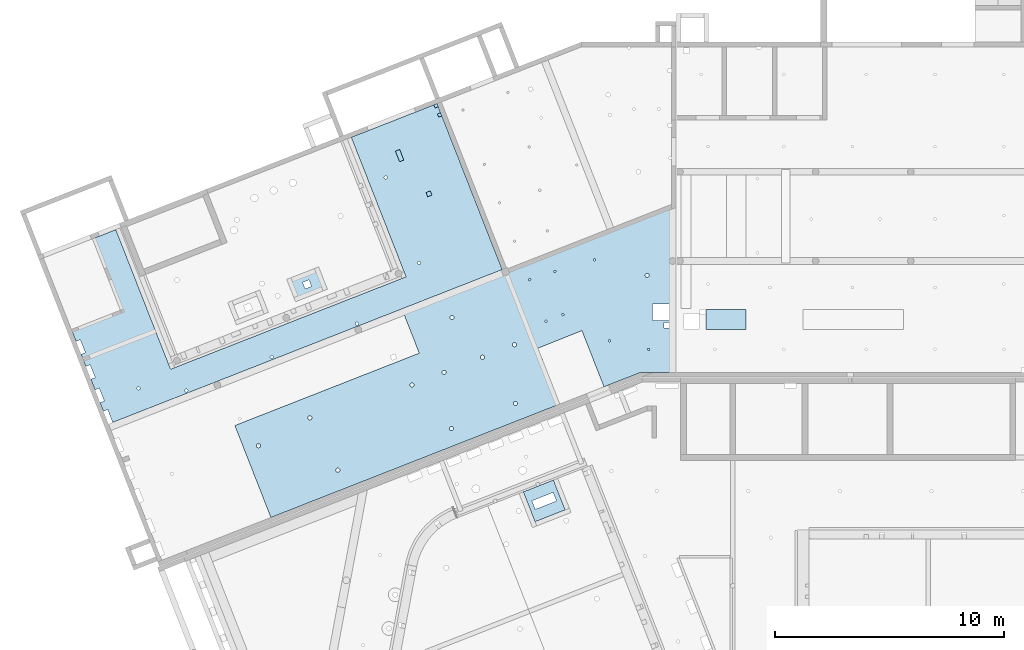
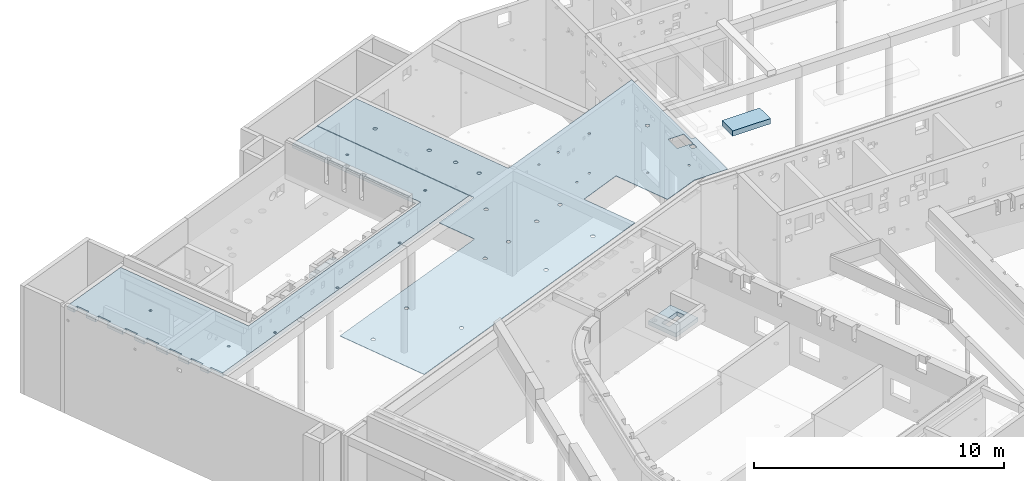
# One storey, part 8 of 28: 5 slabs, 44 openings.
"""IFC2X3 building model written with IfcOpenShell, lengths in metres."""

from ifc_helpers import new_model, entity, si_unit, converted_unit, direction, frame, frame_2d, origin, origin_with_axes, origin_2d_with_axis, place, context, subcontext, project, spatial, polyline, rectangle, circle, outline, extrude, material, element, save


model = new_model("IFC2X3")

# Units and contexts
model_context = context("Model", 3, precision=1e-05, world=origin(), true_north=direction((-0.407059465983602, -0.913401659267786)))
body_context = subcontext(model_context, "Body", "Model", "MODEL_VIEW")
ifc_project = project(units=[si_unit("LENGTHUNIT", "METRE"), si_unit("AREAUNIT", "SQUARE_METRE"), si_unit("VOLUMEUNIT", "CUBIC_METRE"), si_unit("MASSUNIT", "GRAM", prefix="KILO"), converted_unit("PLANEANGLEUNIT", "DEGREE", entity("IfcPlaneAngleMeasure", 0.0174532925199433), si_unit("PLANEANGLEUNIT", "RADIAN"), dimensions=[0, 0, 0, 0, 0, 0, 0])], contexts=[model_context])

# Site, buildings, storey
site_placement = place(None, origin())
site = spatial("IfcSite", under=ifc_project, at=site_placement, Name="Site", CompositionType="ELEMENT")
building_1_placement = place(site_placement, origin())
building_1 = spatial("IfcBuilding", under=site, at=building_1_placement, Name="Site", CompositionType="COMPLEX")
building_2_placement = place(building_1_placement, origin())
building_2 = spatial("IfcBuilding", under=building_1, at=building_2_placement, Name="Bâtiments", CompositionType="ELEMENT")
storey_placement = place(building_2_placement, frame((0.0, 0.0, -5.3)))
storey = spatial("IfcBuildingStorey", under=building_2, at=storey_placement, Name="SOUS-SOL", CompositionType="ELEMENT", Elevation=-5.3)

# Slab, opening
ifc_material_1 = material(Name="Béton")
slab_1_placement = place(storey_placement, frame((10.8546325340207, -1.92984613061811, 3.35)))
slab_1 = element("IfcSlab", 1, at=slab_1_placement, inside=storey, material=ifc_material_1, PredefinedType="FLOOR", context=body_context, shape_type="SweptSolid", body=[
    extrude(rectangle(XDim=1.05000000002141, YDim=1.50000472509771, at=frame_2d((0.889939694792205, -0.214792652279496), x_axis=(0.365246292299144, -0.930910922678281))), frame((0.0, 0.977456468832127, 0.0), z_axis=(0.0, 0.0, 1.0), x_axis=(1.0, 0.0, 0.0)), (0.0, 0.0, 1.0), 0.2),
])
opening_1_placement = place(slab_1_placement, frame((0.695519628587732, 0.5682336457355, 0.0)))
element("IfcOpeningElement", 2, at=opening_1_placement, cuts=slab_1, Name="Trémie dans dalle", ObjectType="Opening", context=body_context, shape_type="SweptSolid", body=[
    extrude(rectangle(XDim=0.299999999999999, YDim=0.300000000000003, at=frame_2d((3.63797880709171e-15, -2.27373675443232e-16), x_axis=(0.365246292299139, -0.930910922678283))), frame((0.194423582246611, 0.194423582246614, 0.0), z_axis=(0.0, 0.0, 1.0), x_axis=(1.0, 0.0, 0.0)), (0.0, 0.0, 1.0), 0.2),
])

# Slab
ifc_material_2 = material(Name="Dalle_BA")
slab_2_placement = place(storey_placement, frame((29.1797734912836, -3.13737551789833, 5.18)))
element("IfcSlab", 3, at=slab_2_placement, inside=storey, material=ifc_material_2, PredefinedType="FLOOR", context=body_context, shape_type="SweptSolid", body=[
    extrude(rectangle(XDim=0.860000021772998, YDim=1.75000000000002, at=frame_2d((0.875000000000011, -0.430000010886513), x_axis=(0.0, -1.0))), frame((0.0, 0.860000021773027, 0.0), z_axis=(0.0, 0.0, 1.0), x_axis=(1.0, 0.0, 0.0)), (0.0, 0.0, 1.0), 0.26),
])

# Slab, opening
ifc_material_3 = material(Name="Dalle_BA")
slab_3_placement = place(storey_placement, frame((21.1932772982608, -11.5376427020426, 3.06)))
slab_3 = element("IfcSlab", 4, at=slab_3_placement, inside=storey, material=ifc_material_3, PredefinedType="FLOOR", context=body_context, shape_type="SweptSolid", body=[
    extrude(rectangle(XDim=1.40000000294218, YDim=1.41, at=frame_2d((0.911965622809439, -0.394136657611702), x_axis=(0.365248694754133, -0.930909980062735))), frame((0.0, 1.30327397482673, 0.0), z_axis=(0.0, 0.0, 1.0), x_axis=(1.0, 0.0, 0.0)), (0.0, 0.0, 1.0), 0.2),
])
opening_2_placement = place(slab_3_placement, frame((0.373318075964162, 0.540688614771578, 0.0)))
element("IfcOpeningElement", 5, at=opening_2_placement, cuts=slab_3, Name="Trémie dans dalle", ObjectType="Opening", context=body_context, shape_type="SweptSolid", body=[
    extrude(rectangle(XDim=0.4, YDim=0.999999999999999, at=frame_2d((5.45696821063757e-15, 9.09494701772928e-16), x_axis=(0.365248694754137, -0.930909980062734))), frame((0.538504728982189, 0.368806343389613, 0.0), z_axis=(0.0, 0.0, 1.0), x_axis=(1.0, 0.0, 0.0)), (0.0, 0.0, 1.0), 0.2),
])

# Slab, openings
ifc_material_4 = material(Name="Béton")
slab_4_placement = place(storey_placement, frame((8.58747269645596, -11.3527212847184, 5.16)))
slab_4 = element("IfcSlab", 6, at=slab_4_placement, inside=storey, material=ifc_material_4, PredefinedType="FLOOR", context=body_context, shape_type="SweptSolid", body=[
    extrude(outline(polyline([(15.16430892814, 8.16389032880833), (16.1272026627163, 5.70923594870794), (17.7191113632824, 6.33383182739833), (19.2751420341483, 6.33382847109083), (19.2751479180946, 8.89333667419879), (19.2752129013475, 8.89336709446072), (19.0751479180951, 8.89333713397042), (19.0751589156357, 13.6774788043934), (11.6977486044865, 10.782924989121), (8.83438880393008, 18.0808304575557), (6.55218909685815, 17.185401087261), (9.48849608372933, 9.70157358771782), (7.39012760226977, 8.8782710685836), (8.05715747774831, 7.17819796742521), (0.0, 4.01694287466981), (1.5760621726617, 0.0), (14.1998395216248, 4.95302230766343), (13.2424809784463, 7.39489115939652), (15.16430892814, 8.16389032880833)])), origin_with_axes(), (0.0, 0.0, 1.0), 0.02),
])
opening_3_placement = place(slab_4_placement, frame((8.36874112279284, 15.7484575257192, 0.0)))
element("IfcOpeningElement", 7, at=opening_3_placement, cuts=slab_4, Name="Trémie dans dalle", ObjectType="Opening", context=body_context, shape_type="SweptSolid", body=[
    extrude(circle(Radius=0.0899999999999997, at=frame_2d((-3.63797880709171e-15, 9.09494701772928e-16), x_axis=(1.0, 0.0))), frame((0.0896285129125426, 0.0896285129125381, 0.0), z_axis=(0.0, 0.0, 1.0), x_axis=(1.0, 0.0, 0.0)), (0.0, 0.0, 1.0), 0.02),
])
opening_4_placement = place(slab_4_placement, frame((9.48985196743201, 13.3621715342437, 0.0)))
element("IfcOpeningElement", 8, at=opening_4_placement, cuts=slab_4, Name="Trémie dans dalle", ObjectType="Opening", context=body_context, shape_type="SweptSolid", body=[
    extrude(circle(Radius=0.0899999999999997, at=frame_2d((3.63797880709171e-15, 4.54747350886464e-16), x_axis=(1.0, 0.0))), frame((0.0896285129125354, 0.0896285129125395, 0.0), z_axis=(0.0, 0.0, 1.0), x_axis=(1.0, 0.0, 0.0)), (0.0, 0.0, 1.0), 0.02),
])
opening_5_placement = place(slab_4_placement, frame((9.98379693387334, 12.1030601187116, 0.0)))
element("IfcOpeningElement", 9, at=opening_5_placement, cuts=slab_4, Name="Trémie dans dalle", ObjectType="Opening", context=body_context, shape_type="SweptSolid", body=[
    extrude(circle(Radius=0.0899999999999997, at=frame_2d((-3.63797880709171e-15, -1.13686837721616e-16), x_axis=(1.0, 0.0))), frame((0.0896285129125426, 0.08962851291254, 0.0), z_axis=(0.0, 0.0, 1.0), x_axis=(1.0, 0.0, 0.0)), (0.0, 0.0, 1.0), 0.02),
])
opening_6_placement = place(slab_4_placement, frame((10.4228115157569, 10.9841006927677, 0.0)))
element("IfcOpeningElement", 10, at=opening_6_placement, cuts=slab_4, Name="Trémie dans dalle", ObjectType="Opening", context=body_context, shape_type="SweptSolid", body=[
    extrude(circle(Radius=0.0899999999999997, at=frame_2d((7.27595761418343e-15, 3.41060513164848e-16), x_axis=(1.0, 0.0))), frame((0.0896285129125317, 0.0896285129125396, 0.0), z_axis=(0.0, 0.0, 1.0), x_axis=(1.0, 0.0, 0.0)), (0.0, 0.0, 1.0), 0.02),
])
opening_7_placement = place(slab_4_placement, frame((0.944667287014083, 3.04144529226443, 0.0)))
element("IfcOpeningElement", 11, at=opening_7_placement, cuts=slab_4, Name="Trémie dans dalle", ObjectType="Opening", context=body_context, shape_type="SweptSolid", body=[
    extrude(circle(Radius=0.0899999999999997, at=frame_2d((1.81898940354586e-15, 0.0), x_axis=(1.0, 0.0))), frame((0.0896285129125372, 0.0896285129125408, 0.0), z_axis=(0.0, 0.0, 1.0), x_axis=(1.0, 0.0, 0.0)), (0.0, 0.0, 1.0), 0.02),
])
opening_8_placement = place(slab_4_placement, frame((4.40881407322, 1.97607702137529, 0.0)))
element("IfcOpeningElement", 12, at=opening_8_placement, cuts=slab_4, Name="Trémie dans dalle", ObjectType="Opening", context=body_context, shape_type="SweptSolid", body=[
    extrude(circle(Radius=0.0899999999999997, at=frame_2d((1.81898940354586e-15, 3.63797880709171e-15), x_axis=(1.0, 0.0))), frame((0.0896285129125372, 0.0896285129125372, 0.0), z_axis=(0.0, 0.0, 1.0), x_axis=(1.0, 0.0, 0.0)), (0.0, 0.0, 1.0), 0.02),
])
opening_9_placement = place(slab_4_placement, frame((3.1881008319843, 4.26218366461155, 0.0)))
element("IfcOpeningElement", 13, at=opening_9_placement, cuts=slab_4, Name="Trémie dans dalle", ObjectType="Opening", context=body_context, shape_type="SweptSolid", body=[
    extrude(circle(Radius=0.0899999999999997, at=frame_2d((1.81898940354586e-15, 2.72848410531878e-15), x_axis=(1.0, 0.0))), frame((0.0896285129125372, 0.0896285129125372, 0.0), z_axis=(0.0, 0.0, 1.0), x_axis=(1.0, 0.0, 0.0)), (0.0, 0.0, 1.0), 0.02),
])
opening_10_placement = place(slab_4_placement, frame((9.40289424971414, 8.64713968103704, 0.0)))
element("IfcOpeningElement", 14, at=opening_10_placement, cuts=slab_4, Name="Trémie dans dalle", ObjectType="Opening", context=body_context, shape_type="SweptSolid", body=[
    extrude(circle(Radius=0.0899999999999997, at=frame_2d((0.0, 9.09494701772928e-16), x_axis=(1.0, 0.0))), frame((0.089628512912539, 0.089628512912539, 0.0), z_axis=(0.0, 0.0, 1.0), x_axis=(1.0, 0.0, 0.0)), (0.0, 0.0, 1.0), 0.02),
])
opening_11_placement = place(slab_4_placement, frame((7.65351105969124, 5.70117787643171, 0.0)))
element("IfcOpeningElement", 15, at=opening_11_placement, cuts=slab_4, Name="Trémie dans dalle", ObjectType="Opening", context=body_context, shape_type="SweptSolid", body=[
    extrude(circle(Radius=0.0899999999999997, at=origin_2d_with_axis()), frame((0.089628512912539, 0.0896285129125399, 0.0), z_axis=(0.0, 0.0, 1.0), x_axis=(1.0, 0.0, 0.0)), (0.0, 0.0, 1.0), 0.02),
])
opening_12_placement = place(slab_4_placement, frame((9.05221034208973, 6.24994610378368, 0.0)))
element("IfcOpeningElement", 16, at=opening_12_placement, cuts=slab_4, Name="Trémie dans dalle", ObjectType="Opening", context=body_context, shape_type="SweptSolid", body=[
    extrude(circle(Radius=0.0899999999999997, at=frame_2d((0.0, 2.72848410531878e-15), x_axis=(1.0, 0.0))), frame((0.089628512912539, 0.0896285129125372, 0.0), z_axis=(0.0, 0.0, 1.0), x_axis=(1.0, 0.0, 0.0)), (0.0, 0.0, 1.0), 0.02),
])
opening_13_placement = place(slab_4_placement, frame((9.37039455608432, 3.79345087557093, 0.0)))
element("IfcOpeningElement", 17, at=opening_13_placement, cuts=slab_4, Name="Trémie dans dalle", ObjectType="Opening", context=body_context, shape_type="SweptSolid", body=[
    extrude(circle(Radius=0.0899999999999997, at=frame_2d((-7.27595761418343e-15, 2.72848410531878e-15), x_axis=(1.0, 0.0))), frame((0.0896285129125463, 0.0896285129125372, 0.0), z_axis=(0.0, 0.0, 1.0), x_axis=(1.0, 0.0, 0.0)), (0.0, 0.0, 1.0), 0.02),
])
opening_14_placement = place(slab_4_placement, frame((12.1677931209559, 4.89098733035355, 0.0)))
element("IfcOpeningElement", 18, at=opening_14_placement, cuts=slab_4, Name="Trémie dans dalle", ObjectType="Opening", context=body_context, shape_type="SweptSolid", body=[
    extrude(circle(Radius=0.0899999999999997, at=frame_2d((-7.27595761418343e-15, -9.09494701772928e-16), x_axis=(1.0, 0.0))), frame((0.0896285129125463, 0.0896285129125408, 0.0), z_axis=(0.0, 0.0, 1.0), x_axis=(1.0, 0.0, 0.0)), (0.0, 0.0, 1.0), 0.02),
])
opening_15_placement = place(slab_4_placement, frame((10.7304668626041, 6.90893343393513, 0.0)))
element("IfcOpeningElement", 19, at=opening_15_placement, cuts=slab_4, Name="Trémie dans dalle", ObjectType="Opening", context=body_context, shape_type="SweptSolid", body=[
    extrude(circle(Radius=0.0899999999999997, at=frame_2d((3.63797880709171e-15, 0.0), x_axis=(1.0, 0.0))), frame((0.0896285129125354, 0.0896285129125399, 0.0), z_axis=(0.0, 0.0, 1.0), x_axis=(1.0, 0.0, 0.0)), (0.0, 0.0, 1.0), 0.02),
])
opening_16_placement = place(slab_4_placement, frame((12.1291661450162, 7.45770166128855, 0.0)))
element("IfcOpeningElement", 20, at=opening_16_placement, cuts=slab_4, Name="Trémie dans dalle", ObjectType="Opening", context=body_context, shape_type="SweptSolid", body=[
    extrude(circle(Radius=0.0899999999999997, at=frame_2d((-7.27595761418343e-15, 0.0), x_axis=(1.0, 0.0))), frame((0.0896285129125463, 0.0896285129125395, 0.0), z_axis=(0.0, 0.0, 1.0), x_axis=(1.0, 0.0, 0.0)), (0.0, 0.0, 1.0), 0.02),
])
opening_17_placement = place(slab_4_placement, frame((17.9240695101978, 10.4874824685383, 0.0)))
element("IfcOpeningElement", 21, at=opening_17_placement, cuts=slab_4, Name="Trémie dans dalle", ObjectType="Opening", context=body_context, shape_type="SweptSolid", body=[
    extrude(circle(Radius=0.0899999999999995, at=frame_2d((-1.45519152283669e-14, -1.13686837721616e-16), x_axis=(1.0, 0.0))), frame((0.0896285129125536, 0.0896285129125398, 0.0), z_axis=(0.0, 0.0, 1.0), x_axis=(1.0, 0.0, 0.0)), (0.0, 0.0, 1.0), 0.02),
])
opening_18_placement = place(slab_4_placement, frame((14.2836543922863, 8.81193534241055, 0.0)))
element("IfcOpeningElement", 22, at=opening_18_placement, cuts=slab_4, Name="Trémie dans dalle", ObjectType="Opening", context=body_context, shape_type="SweptSolid", body=[
    extrude(circle(Radius=0.05, at=origin_2d_with_axis()), frame((0.0497936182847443, 0.0497936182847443, 0.0), z_axis=(0.0, 0.0, 1.0), x_axis=(1.0, 0.0, 0.0)), (0.0, 0.0, 1.0), 0.02),
])
opening_19_placement = place(slab_4_placement, frame((13.543263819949, 8.5206499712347, 0.0)))
element("IfcOpeningElement", 23, at=opening_19_placement, cuts=slab_4, Name="Trémie dans dalle", ObjectType="Opening", context=body_context, shape_type="SweptSolid", body=[
    extrude(circle(Radius=0.05, at=frame_2d((0.0, -9.09494701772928e-16), x_axis=(1.0, 0.0))), frame((0.0497936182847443, 0.0497936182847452, 0.0), z_axis=(0.0, 0.0, 1.0), x_axis=(1.0, 0.0, 0.0)), (0.0, 0.0, 1.0), 0.02),
])
opening_20_placement = place(slab_4_placement, frame((12.8309186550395, 10.3396461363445, 0.0)))
element("IfcOpeningElement", 24, at=opening_20_placement, cuts=slab_4, Name="Trémie dans dalle", ObjectType="Opening", context=body_context, shape_type="SweptSolid", body=[
    extrude(circle(Radius=0.05, at=origin_2d_with_axis()), frame((0.0497936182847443, 0.0497936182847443, 0.0), z_axis=(0.0, 0.0, 1.0), x_axis=(1.0, 0.0, 0.0)), (0.0, 0.0, 1.0), 0.02),
])
opening_21_placement = place(slab_4_placement, frame((13.9322395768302, 10.7011476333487, 0.0)))
element("IfcOpeningElement", 25, at=opening_21_placement, cuts=slab_4, Name="Trémie dans dalle", ObjectType="Opening", context=body_context, shape_type="SweptSolid", body=[
    extrude(circle(Radius=0.05, at=frame_2d((1.09139364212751e-14, 1.13686837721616e-16), x_axis=(1.0, 0.0))), frame((0.0497936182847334, 0.0497936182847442, 0.0), z_axis=(0.0, 0.0, 1.0), x_axis=(1.0, 0.0, 0.0)), (0.0, 0.0, 1.0), 0.02),
])
opening_22_placement = place(slab_4_placement, frame((15.661371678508, 11.2129127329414, 0.0)))
element("IfcOpeningElement", 26, at=opening_22_placement, cuts=slab_4, Name="Trémie dans dalle", ObjectType="Opening", context=body_context, shape_type="SweptSolid", body=[
    extrude(circle(Radius=0.05, at=frame_2d((3.63797880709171e-15, 0.0), x_axis=(1.0, 0.0))), frame((0.0497936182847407, 0.0497936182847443, 0.0), z_axis=(0.0, 0.0, 1.0), x_axis=(1.0, 0.0, 0.0)), (0.0, 0.0, 1.0), 0.02),
])
opening_23_placement = place(slab_4_placement, frame((16.3194823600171, 7.66747533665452, 0.0)))
element("IfcOpeningElement", 27, at=opening_23_placement, cuts=slab_4, Name="Trémie dans dalle", ObjectType="Opening", context=body_context, shape_type="SweptSolid", body=[
    extrude(circle(Radius=0.05, at=frame_2d((-7.27595761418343e-15, 9.09494701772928e-16), x_axis=(1.0, 0.0))), frame((0.0497936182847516, 0.0497936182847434, 0.0), z_axis=(0.0, 0.0, 1.0), x_axis=(1.0, 0.0, 0.0)), (0.0, 0.0, 1.0), 0.02),
])
opening_24_placement = place(slab_4_placement, frame((18.0258085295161, 7.29275080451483, 0.0)))
element("IfcOpeningElement", 28, at=opening_24_placement, cuts=slab_4, Name="Trémie dans dalle", ObjectType="Opening", context=body_context, shape_type="SweptSolid", body=[
    extrude(circle(Radius=0.05, at=frame_2d((3.63797880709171e-15, 9.09494701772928e-16), x_axis=(1.0, 0.0))), frame((0.0497936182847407, 0.0497936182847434, 0.0), z_axis=(0.0, 0.0, 1.0), x_axis=(1.0, 0.0, 0.0)), (0.0, 0.0, 1.0), 0.02),
])
opening_25_placement = place(slab_4_placement, frame((18.24522494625, 8.59840204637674, 0.0)))
element("IfcOpeningElement", 29, at=opening_25_placement, cuts=slab_4, Name="Trémie dans dalle", ObjectType="Opening", context=body_context, shape_type="SweptSolid", body=[
    extrude(rectangle(XDim=0.73, YDim=0.73, at=frame_2d((-3.63797880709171e-15, 0.0), x_axis=(0.0, -1.0))), frame((0.365000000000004, 0.365, 0.0), z_axis=(0.0, 0.0, 1.0), x_axis=(1.0, 0.0, 0.0)), (0.0, 0.0, 1.0), 0.02),
])
opening_26_placement = place(slab_4_placement, frame((18.7451959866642, 8.2824565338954, 0.0)))
element("IfcOpeningElement", 30, at=opening_26_placement, cuts=slab_4, Name="Trémie dans dalle", ObjectType="Opening", context=body_context, shape_type="SweptSolid", body=[
    extrude(rectangle(XDim=0.23, YDim=0.23, at=frame_2d((7.27595761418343e-15, 4.54747350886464e-16), x_axis=(0.0, -1.0))), frame((0.114999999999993, 0.115, 0.0), z_axis=(0.0, 0.0, 1.0), x_axis=(1.0, 0.0, 0.0)), (0.0, 0.0, 1.0), 0.02),
])

ifc_material_5 = material(Name="Béton")
slab_5_placement = place(storey_placement, frame((0.222706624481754, -7.27145768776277, 4.96)))
slab_5 = element("IfcSlab", 31, at=slab_5_placement, inside=storey, material=ifc_material_5, PredefinedType="FLOOR", context=body_context, shape_type="SweptSolid", body=[
    extrude(outline(polyline([(0.0, 7.25141577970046), (2.84506772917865, 0.0), (20.0441345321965, 6.74816070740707), (17.1990388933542, 13.9995213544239), (13.4517977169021, 12.5292801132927), (15.8443781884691, 6.43189930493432), (5.55781249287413, 2.39592777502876), (3.16544927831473, 8.4933943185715), (0.0, 7.25141577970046)])), origin_with_axes(), (0.0, 0.0, 1.0), 0.2),
])
opening_27_placement = place(slab_5_placement, frame((2.25897651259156, 0.935399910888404, 0.0)))
element("IfcOpeningElement", 32, at=opening_27_placement, cuts=slab_5, Name="Trémie dans dalle", ObjectType="Opening", context=body_context, shape_type="SweptSolid", body=[
    extrude(rectangle(XDim=0.599999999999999, YDim=0.2, at=frame_2d((-2.27373675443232e-16, 0.0), x_axis=(0.365246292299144, -0.930910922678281))), frame((0.202664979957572, 0.315797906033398, 0.0), z_axis=(0.0, 0.0, 1.0), x_axis=(1.0, 0.0, 0.0)), (0.0, 0.0, 1.0), 0.2),
])
opening_28_placement = place(slab_5_placement, frame((1.85826356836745, 1.95670543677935, 0.0)))
element("IfcOpeningElement", 33, at=opening_28_placement, cuts=slab_5, Name="Trémie dans dalle", ObjectType="Opening", context=body_context, shape_type="SweptSolid", body=[
    extrude(rectangle(XDim=0.599999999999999, YDim=0.2, at=frame_2d((2.27373675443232e-16, 0.0), x_axis=(0.365246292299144, -0.930910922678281))), frame((0.202664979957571, 0.315797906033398, 0.0), z_axis=(0.0, 0.0, 1.0), x_axis=(1.0, 0.0, 0.0)), (0.0, 0.0, 1.0), 0.2),
])
opening_29_placement = place(slab_5_placement, frame((2.62591995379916, 0.0, 0.0)))
element("IfcOpeningElement", 34, at=opening_29_placement, cuts=slab_5, Name="Trémie dans dalle", ObjectType="Opening", context=body_context, shape_type="SweptSolid", body=[
    extrude(rectangle(XDim=0.599999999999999, YDim=0.2, at=frame_2d((2.27373675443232e-16, 0.0), x_axis=(0.365246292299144, -0.930910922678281))), frame((0.202664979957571, 0.315797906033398, 0.0), z_axis=(0.0, 0.0, 1.0), x_axis=(1.0, 0.0, 0.0)), (0.0, 0.0, 1.0), 0.2),
])
opening_30_placement = place(slab_5_placement, frame((9.90956948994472, 2.86196094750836, 0.0)))
element("IfcOpeningElement", 35, at=opening_30_placement, cuts=slab_5, Name="Trémie dans dalle", ObjectType="Opening", context=body_context, shape_type="SweptSolid", body=[
    extrude(circle(Radius=0.0650000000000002, at=frame_2d((-3.63797880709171e-15, 9.09494701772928e-16), x_axis=(1.0, 0.0))), frame((0.0647317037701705, 0.0647317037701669, 0.0), z_axis=(0.0, 0.0, 1.0), x_axis=(1.0, 0.0, 0.0)), (0.0, 0.0, 1.0), 0.2),
])
opening_31_placement = place(slab_5_placement, frame((13.6318494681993, 4.32241105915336, 0.0)))
element("IfcOpeningElement", 36, at=opening_31_placement, cuts=slab_5, Name="Trémie dans dalle", ObjectType="Opening", context=body_context, shape_type="SweptSolid", body=[
    extrude(circle(Radius=0.0650000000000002, at=frame_2d((3.63797880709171e-15, 0.0), x_axis=(1.0, 0.0))), frame((0.0647317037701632, 0.0647317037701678, 0.0), z_axis=(0.0, 0.0, 1.0), x_axis=(1.0, 0.0, 0.0)), (0.0, 0.0, 1.0), 0.2),
])
opening_32_placement = place(slab_5_placement, frame((6.18450910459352, 1.40041993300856, 0.0)))
element("IfcOpeningElement", 37, at=opening_32_placement, cuts=slab_5, Name="Trémie dans dalle", ObjectType="Opening", context=body_context, shape_type="SweptSolid", body=[
    extrude(circle(Radius=0.0650000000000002, at=frame_2d((-1.81898940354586e-15, -1.81898940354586e-15), x_axis=(1.0, 0.0))), frame((0.0647317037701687, 0.0647317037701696, 0.0), z_axis=(0.0, 0.0, 1.0), x_axis=(1.0, 0.0, 0.0)), (0.0, 0.0, 1.0), 0.2),
])
opening_33_placement = place(slab_5_placement, frame((4.09297299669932, 1.49128815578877, 0.0)))
element("IfcOpeningElement", 38, at=opening_33_placement, cuts=slab_5, Name="Trémie dans dalle", ObjectType="Opening", context=body_context, shape_type="SweptSolid", body=[
    extrude(circle(Radius=0.0650000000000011, at=frame_2d((1.81898940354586e-15, -1.81898940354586e-15), x_axis=(1.0, 0.0))), frame((0.064731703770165, 0.0647317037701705, 0.0), z_axis=(0.0, 0.0, 1.0), x_axis=(1.0, 0.0, 0.0)), (0.0, 0.0, 1.0), 0.2),
])
opening_34_placement = place(slab_5_placement, frame((14.8914163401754, 10.7033739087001, 0.0)))
element("IfcOpeningElement", 39, at=opening_34_placement, cuts=slab_5, Name="Trémie dans dalle", ObjectType="Opening", context=body_context, shape_type="SweptSolid", body=[
    extrude(circle(Radius=0.0650000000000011, at=frame_2d((0.0, 4.54747350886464e-16), x_axis=(1.0, 0.0))), frame((0.0647317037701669, 0.0647317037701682, 0.0), z_axis=(0.0, 0.0, 1.0), x_axis=(1.0, 0.0, 0.0)), (0.0, 0.0, 1.0), 0.2),
])
opening_35_placement = place(slab_5_placement, frame((16.3519419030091, 6.98090162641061, 0.0)))
element("IfcOpeningElement", 40, at=opening_35_placement, cuts=slab_5, Name="Trémie dans dalle", ObjectType="Opening", context=body_context, shape_type="SweptSolid", body=[
    extrude(circle(Radius=0.064999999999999, at=frame_2d((0.0, -2.27373675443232e-16), x_axis=(1.0, 0.0))), frame((0.064731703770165, 0.0647317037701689, 0.0), z_axis=(0.0, 0.0, 1.0), x_axis=(1.0, 0.0, 0.0)), (0.0, 0.0, 1.0), 0.2),
])
opening_36_placement = place(slab_5_placement, frame((1.42927524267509, 3.05007702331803, 0.0)))
element("IfcOpeningElement", 41, at=opening_36_placement, cuts=slab_5, Name="Trémie dans dalle", ObjectType="Opening", context=body_context, shape_type="SweptSolid", body=[
    extrude(rectangle(XDim=0.200000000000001, YDim=0.599999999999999, at=frame_2d((-2.27373675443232e-16, 4.54747350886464e-16), x_axis=(0.930910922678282, 0.365246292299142))), frame((0.202664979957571, 0.315797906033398, 0.0), z_axis=(0.0, 0.0, 1.0), x_axis=(1.0, 0.0, 0.0)), (0.0, 0.0, 1.0), 0.2),
])
opening_37_placement = place(slab_5_placement, frame((2.63175585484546, 5.21552308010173, 0.0)))
element("IfcOpeningElement", 42, at=opening_37_placement, cuts=slab_5, Name="Trémie dans dalle", ObjectType="Opening", context=body_context, shape_type="SweptSolid", body=[
    extrude(circle(Radius=0.0650000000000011, at=frame_2d((0.0, -6.82121026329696e-16), x_axis=(1.0, 0.0))), frame((0.0647317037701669, 0.0647317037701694, 0.0), z_axis=(0.0, 0.0, 1.0), x_axis=(1.0, 0.0, 0.0)), (0.0, 0.0, 1.0), 0.2),
])
opening_38_placement = place(slab_5_placement, frame((0.120849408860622, 6.38488952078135, 0.0)))
element("IfcOpeningElement", 43, at=opening_38_placement, cuts=slab_5, Name="Trémie dans dalle", ObjectType="Opening", context=body_context, shape_type="SweptSolid", body=[
    extrude(rectangle(XDim=0.200000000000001, YDim=0.599999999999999, at=frame_2d((-2.27373675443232e-16, -1.13686837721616e-16), x_axis=(0.930910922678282, 0.365246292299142))), frame((0.202664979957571, 0.315797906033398, 0.0), z_axis=(0.0, 0.0, 1.0), x_axis=(1.0, 0.0, 0.0)), (0.0, 0.0, 1.0), 0.2),
])
opening_39_placement = place(slab_5_placement, frame((0.521562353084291, 5.36358399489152, 0.0)))
element("IfcOpeningElement", 44, at=opening_39_placement, cuts=slab_5, Name="Trémie dans dalle", ObjectType="Opening", context=body_context, shape_type="SweptSolid", body=[
    extrude(rectangle(XDim=0.200000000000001, YDim=0.599999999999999, at=frame_2d((-2.27373675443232e-16, 2.27373675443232e-16), x_axis=(0.930910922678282, 0.365246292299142))), frame((0.202664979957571, 0.315797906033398, 0.0), z_axis=(0.0, 0.0, 1.0), x_axis=(1.0, 0.0, 0.0)), (0.0, 0.0, 1.0), 0.2),
])
opening_40_placement = place(slab_5_placement, frame((1.02856229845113, 4.0713825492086, 0.0)))
element("IfcOpeningElement", 45, at=opening_40_placement, cuts=slab_5, Name="Trémie dans dalle", ObjectType="Opening", context=body_context, shape_type="SweptSolid", body=[
    extrude(rectangle(XDim=0.200000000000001, YDim=0.599999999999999, at=frame_2d((-2.27373675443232e-16, 0.0), x_axis=(0.930910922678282, 0.365246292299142))), frame((0.202664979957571, 0.315797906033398, 0.0), z_axis=(0.0, 0.0, 1.0), x_axis=(1.0, 0.0, 0.0)), (0.0, 0.0, 1.0), 0.2),
])
opening_41_placement = place(slab_5_placement, frame((15.3798732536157, 11.4597851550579, 0.0)))
element("IfcOpeningElement", 46, at=opening_41_placement, cuts=slab_5, Name="Trémie dans dalle", ObjectType="Opening", context=body_context, shape_type="SweptSolid", body=[
    extrude(rectangle(XDim=0.200000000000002, YDim=0.5, at=frame_2d((0.0, -4.54747350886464e-16), x_axis=(0.930911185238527, 0.365245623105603))), frame((0.184402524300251, 0.269252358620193, 0.0), z_axis=(0.0, 0.0, 1.0), x_axis=(1.0, 0.0, 0.0)), (0.0, 0.0, 1.0), 0.2),
])
opening_42_placement = place(slab_5_placement, frame((17.2149639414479, 13.4089555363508, 0.0)))
element("IfcOpeningElement", 47, at=opening_42_placement, cuts=slab_5, Name="Trémie dans dalle", ObjectType="Opening", context=body_context, shape_type="SweptSolid", body=[
    extrude(rectangle(XDim=0.149999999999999, YDim=0.15, at=frame_2d((-3.63797880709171e-15, -9.09494701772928e-16), x_axis=(0.365246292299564, -0.930910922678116))), frame((0.097211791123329, 0.0972117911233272, 0.0), z_axis=(0.0, 0.0, 1.0), x_axis=(1.0, 0.0, 0.0)), (0.0, 0.0, 1.0), 0.2),
])
opening_43_placement = place(slab_5_placement, frame((17.059518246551, 13.8051432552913, 0.0)))
element("IfcOpeningElement", 48, at=opening_43_placement, cuts=slab_5, Name="Trémie dans dalle", ObjectType="Opening", context=body_context, shape_type="SweptSolid", body=[
    extrude(rectangle(XDim=0.149999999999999, YDim=0.15, at=frame_2d((-3.63797880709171e-15, 0.0), x_axis=(0.365246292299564, -0.930910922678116))), frame((0.097211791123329, 0.0972117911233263, 0.0), z_axis=(0.0, 0.0, 1.0), x_axis=(1.0, 0.0, 0.0)), (0.0, 0.0, 1.0), 0.2),
])
opening_44_placement = place(slab_5_placement, frame((16.7177645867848, 9.92778943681, 0.0)))
element("IfcOpeningElement", 49, at=opening_44_placement, cuts=slab_5, Name="Trémie dans dalle", ObjectType="Opening", context=body_context, shape_type="SweptSolid", body=[
    extrude(rectangle(XDim=0.199999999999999, YDim=0.200000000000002, at=frame_2d((0.0, 4.54747350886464e-16), x_axis=(0.365246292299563, -0.930910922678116))), frame((0.129615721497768, 0.129615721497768, 0.0), z_axis=(0.0, 0.0, 1.0), x_axis=(1.0, 0.0, 0.0)), (0.0, 0.0, 1.0), 0.2),
])

save(model, "model.ifc")
